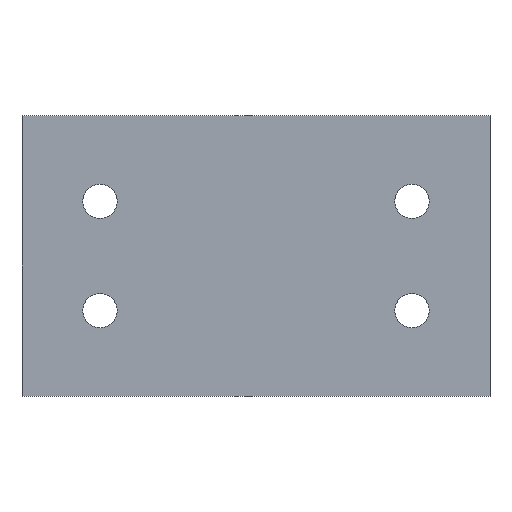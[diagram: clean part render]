
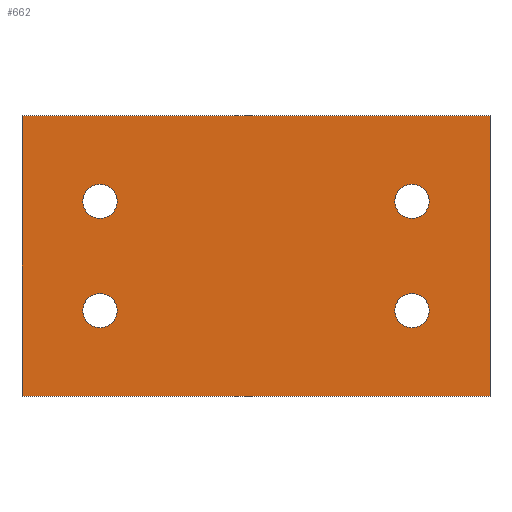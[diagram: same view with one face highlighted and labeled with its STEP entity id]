
A CAD part, top view. The second image highlights one B-rep face of the part: STEP entity #662.
In plain terms, the highlighted planar face has unit normal (0, 0, 1).
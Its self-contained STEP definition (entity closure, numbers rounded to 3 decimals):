
#24 = VERTEX_POINT('',#25);
#25 = CARTESIAN_POINT('',(-150.,-90.,20.));
#32 = PLANE('',#33);
#33 = AXIS2_PLACEMENT_3D('',#34,#35,#36);
#34 = CARTESIAN_POINT('',(-150.,-90.,0.));
#35 = DIRECTION('',(0.,1.,0.));
#36 = DIRECTION('',(1.,0.,0.));
#44 = PLANE('',#45);
#45 = AXIS2_PLACEMENT_3D('',#46,#47,#48);
#46 = CARTESIAN_POINT('',(-150.,90.,0.));
#47 = DIRECTION('',(1.,0.,-0.));
#48 = DIRECTION('',(0.,-1.,0.));
#56 = EDGE_CURVE('',#24,#57,#59,.T.);
#57 = VERTEX_POINT('',#58);
#58 = CARTESIAN_POINT('',(150.,-90.,20.));
#59 = SURFACE_CURVE('',#60,(#64,#71),.PCURVE_S1.);
#60 = LINE('',#61,#62);
#61 = CARTESIAN_POINT('',(-150.,-90.,20.));
#62 = VECTOR('',#63,1.);
#63 = DIRECTION('',(1.,0.,0.));
#64 = PCURVE('',#32,#65);
#65 = DEFINITIONAL_REPRESENTATION('',(#66),#70);
#66 = LINE('',#67,#68);
#67 = CARTESIAN_POINT('',(0.,-20.));
#68 = VECTOR('',#69,1.);
#69 = DIRECTION('',(1.,0.));
#70 = ( GEOMETRIC_REPRESENTATION_CONTEXT(2) 
PARAMETRIC_REPRESENTATION_CONTEXT() REPRESENTATION_CONTEXT('2D SPACE',''
  ) );
#71 = PCURVE('',#72,#77);
#72 = PLANE('',#73);
#73 = AXIS2_PLACEMENT_3D('',#74,#75,#76);
#74 = CARTESIAN_POINT('',(0.,0.,20.));
#75 = DIRECTION('',(0.,0.,1.));
#76 = DIRECTION('',(1.,0.,-0.));
#77 = DEFINITIONAL_REPRESENTATION('',(#78),#82);
#78 = LINE('',#79,#80);
#79 = CARTESIAN_POINT('',(-150.,-90.));
#80 = VECTOR('',#81,1.);
#81 = DIRECTION('',(1.,0.));
#82 = ( GEOMETRIC_REPRESENTATION_CONTEXT(2) 
PARAMETRIC_REPRESENTATION_CONTEXT() REPRESENTATION_CONTEXT('2D SPACE',''
  ) );
#100 = PLANE('',#101);
#101 = AXIS2_PLACEMENT_3D('',#102,#103,#104);
#102 = CARTESIAN_POINT('',(150.,-90.,0.));
#103 = DIRECTION('',(-1.,0.,0.));
#104 = DIRECTION('',(0.,1.,0.));
#142 = EDGE_CURVE('',#57,#143,#145,.T.);
#143 = VERTEX_POINT('',#144);
#144 = CARTESIAN_POINT('',(150.,90.,20.));
#145 = SURFACE_CURVE('',#146,(#150,#157),.PCURVE_S1.);
#146 = LINE('',#147,#148);
#147 = CARTESIAN_POINT('',(150.,-90.,20.));
#148 = VECTOR('',#149,1.);
#149 = DIRECTION('',(0.,1.,0.));
#150 = PCURVE('',#100,#151);
#151 = DEFINITIONAL_REPRESENTATION('',(#152),#156);
#152 = LINE('',#153,#154);
#153 = CARTESIAN_POINT('',(0.,-20.));
#154 = VECTOR('',#155,1.);
#155 = DIRECTION('',(1.,0.));
#156 = ( GEOMETRIC_REPRESENTATION_CONTEXT(2) 
PARAMETRIC_REPRESENTATION_CONTEXT() REPRESENTATION_CONTEXT('2D SPACE',''
  ) );
#157 = PCURVE('',#72,#158);
#158 = DEFINITIONAL_REPRESENTATION('',(#159),#163);
#159 = LINE('',#160,#161);
#160 = CARTESIAN_POINT('',(150.,-90.));
#161 = VECTOR('',#162,1.);
#162 = DIRECTION('',(0.,1.));
#163 = ( GEOMETRIC_REPRESENTATION_CONTEXT(2) 
PARAMETRIC_REPRESENTATION_CONTEXT() REPRESENTATION_CONTEXT('2D SPACE',''
  ) );
#181 = PLANE('',#182);
#182 = AXIS2_PLACEMENT_3D('',#183,#184,#185);
#183 = CARTESIAN_POINT('',(150.,90.,0.));
#184 = DIRECTION('',(0.,-1.,0.));
#185 = DIRECTION('',(-1.,0.,0.));
#218 = EDGE_CURVE('',#143,#219,#221,.T.);
#219 = VERTEX_POINT('',#220);
#220 = CARTESIAN_POINT('',(-150.,90.,20.));
#221 = SURFACE_CURVE('',#222,(#226,#233),.PCURVE_S1.);
#222 = LINE('',#223,#224);
#223 = CARTESIAN_POINT('',(150.,90.,20.));
#224 = VECTOR('',#225,1.);
#225 = DIRECTION('',(-1.,0.,0.));
#226 = PCURVE('',#181,#227);
#227 = DEFINITIONAL_REPRESENTATION('',(#228),#232);
#228 = LINE('',#229,#230);
#229 = CARTESIAN_POINT('',(0.,-20.));
#230 = VECTOR('',#231,1.);
#231 = DIRECTION('',(1.,0.));
#232 = ( GEOMETRIC_REPRESENTATION_CONTEXT(2) 
PARAMETRIC_REPRESENTATION_CONTEXT() REPRESENTATION_CONTEXT('2D SPACE',''
  ) );
#233 = PCURVE('',#72,#234);
#234 = DEFINITIONAL_REPRESENTATION('',(#235),#239);
#235 = LINE('',#236,#237);
#236 = CARTESIAN_POINT('',(150.,90.));
#237 = VECTOR('',#238,1.);
#238 = DIRECTION('',(-1.,0.));
#239 = ( GEOMETRIC_REPRESENTATION_CONTEXT(2) 
PARAMETRIC_REPRESENTATION_CONTEXT() REPRESENTATION_CONTEXT('2D SPACE',''
  ) );
#289 = EDGE_CURVE('',#219,#24,#290,.T.);
#290 = SURFACE_CURVE('',#291,(#295,#302),.PCURVE_S1.);
#291 = LINE('',#292,#293);
#292 = CARTESIAN_POINT('',(-150.,90.,20.));
#293 = VECTOR('',#294,1.);
#294 = DIRECTION('',(0.,-1.,0.));
#295 = PCURVE('',#44,#296);
#296 = DEFINITIONAL_REPRESENTATION('',(#297),#301);
#297 = LINE('',#298,#299);
#298 = CARTESIAN_POINT('',(0.,-20.));
#299 = VECTOR('',#300,1.);
#300 = DIRECTION('',(1.,0.));
#301 = ( GEOMETRIC_REPRESENTATION_CONTEXT(2) 
PARAMETRIC_REPRESENTATION_CONTEXT() REPRESENTATION_CONTEXT('2D SPACE',''
  ) );
#302 = PCURVE('',#72,#303);
#303 = DEFINITIONAL_REPRESENTATION('',(#304),#308);
#304 = LINE('',#305,#306);
#305 = CARTESIAN_POINT('',(-150.,90.));
#306 = VECTOR('',#307,1.);
#307 = DIRECTION('',(0.,-1.));
#308 = ( GEOMETRIC_REPRESENTATION_CONTEXT(2) 
PARAMETRIC_REPRESENTATION_CONTEXT() REPRESENTATION_CONTEXT('2D SPACE',''
  ) );
#338 = VERTEX_POINT('',#339);
#339 = CARTESIAN_POINT('',(-89.,-35.,20.));
#346 = CYLINDRICAL_SURFACE('',#347,11.);
#347 = AXIS2_PLACEMENT_3D('',#348,#349,#350);
#348 = CARTESIAN_POINT('',(-100.,-35.,0.));
#349 = DIRECTION('',(-0.,-0.,-1.));
#350 = DIRECTION('',(1.,0.,-0.));
#365 = EDGE_CURVE('',#338,#338,#366,.T.);
#366 = SURFACE_CURVE('',#367,(#372,#379),.PCURVE_S1.);
#367 = CIRCLE('',#368,11.);
#368 = AXIS2_PLACEMENT_3D('',#369,#370,#371);
#369 = CARTESIAN_POINT('',(-100.,-35.,20.));
#370 = DIRECTION('',(0.,0.,1.));
#371 = DIRECTION('',(1.,0.,-0.));
#372 = PCURVE('',#346,#373);
#373 = DEFINITIONAL_REPRESENTATION('',(#374),#378);
#374 = LINE('',#375,#376);
#375 = CARTESIAN_POINT('',(-0.,-20.));
#376 = VECTOR('',#377,1.);
#377 = DIRECTION('',(-1.,0.));
#378 = ( GEOMETRIC_REPRESENTATION_CONTEXT(2) 
PARAMETRIC_REPRESENTATION_CONTEXT() REPRESENTATION_CONTEXT('2D SPACE',''
  ) );
#379 = PCURVE('',#72,#380);
#380 = DEFINITIONAL_REPRESENTATION('',(#381),#385);
#381 = CIRCLE('',#382,11.);
#382 = AXIS2_PLACEMENT_2D('',#383,#384);
#383 = CARTESIAN_POINT('',(-100.,-35.));
#384 = DIRECTION('',(1.,0.));
#385 = ( GEOMETRIC_REPRESENTATION_CONTEXT(2) 
PARAMETRIC_REPRESENTATION_CONTEXT() REPRESENTATION_CONTEXT('2D SPACE',''
  ) );
#416 = VERTEX_POINT('',#417);
#417 = CARTESIAN_POINT('',(-89.,35.,20.));
#424 = CYLINDRICAL_SURFACE('',#425,11.);
#425 = AXIS2_PLACEMENT_3D('',#426,#427,#428);
#426 = CARTESIAN_POINT('',(-100.,35.,0.));
#427 = DIRECTION('',(-0.,-0.,-1.));
#428 = DIRECTION('',(1.,0.,-0.));
#443 = EDGE_CURVE('',#416,#416,#444,.T.);
#444 = SURFACE_CURVE('',#445,(#450,#457),.PCURVE_S1.);
#445 = CIRCLE('',#446,11.);
#446 = AXIS2_PLACEMENT_3D('',#447,#448,#449);
#447 = CARTESIAN_POINT('',(-100.,35.,20.));
#448 = DIRECTION('',(0.,0.,1.));
#449 = DIRECTION('',(1.,0.,-0.));
#450 = PCURVE('',#424,#451);
#451 = DEFINITIONAL_REPRESENTATION('',(#452),#456);
#452 = LINE('',#453,#454);
#453 = CARTESIAN_POINT('',(-0.,-20.));
#454 = VECTOR('',#455,1.);
#455 = DIRECTION('',(-1.,0.));
#456 = ( GEOMETRIC_REPRESENTATION_CONTEXT(2) 
PARAMETRIC_REPRESENTATION_CONTEXT() REPRESENTATION_CONTEXT('2D SPACE',''
  ) );
#457 = PCURVE('',#72,#458);
#458 = DEFINITIONAL_REPRESENTATION('',(#459),#463);
#459 = CIRCLE('',#460,11.);
#460 = AXIS2_PLACEMENT_2D('',#461,#462);
#461 = CARTESIAN_POINT('',(-100.,35.));
#462 = DIRECTION('',(1.,0.));
#463 = ( GEOMETRIC_REPRESENTATION_CONTEXT(2) 
PARAMETRIC_REPRESENTATION_CONTEXT() REPRESENTATION_CONTEXT('2D SPACE',''
  ) );
#494 = VERTEX_POINT('',#495);
#495 = CARTESIAN_POINT('',(111.,-35.,20.));
#502 = CYLINDRICAL_SURFACE('',#503,11.);
#503 = AXIS2_PLACEMENT_3D('',#504,#505,#506);
#504 = CARTESIAN_POINT('',(100.,-35.,0.));
#505 = DIRECTION('',(-0.,-0.,-1.));
#506 = DIRECTION('',(1.,0.,-0.));
#521 = EDGE_CURVE('',#494,#494,#522,.T.);
#522 = SURFACE_CURVE('',#523,(#528,#535),.PCURVE_S1.);
#523 = CIRCLE('',#524,11.);
#524 = AXIS2_PLACEMENT_3D('',#525,#526,#527);
#525 = CARTESIAN_POINT('',(100.,-35.,20.));
#526 = DIRECTION('',(0.,0.,1.));
#527 = DIRECTION('',(1.,0.,-0.));
#528 = PCURVE('',#502,#529);
#529 = DEFINITIONAL_REPRESENTATION('',(#530),#534);
#530 = LINE('',#531,#532);
#531 = CARTESIAN_POINT('',(-0.,-20.));
#532 = VECTOR('',#533,1.);
#533 = DIRECTION('',(-1.,0.));
#534 = ( GEOMETRIC_REPRESENTATION_CONTEXT(2) 
PARAMETRIC_REPRESENTATION_CONTEXT() REPRESENTATION_CONTEXT('2D SPACE',''
  ) );
#535 = PCURVE('',#72,#536);
#536 = DEFINITIONAL_REPRESENTATION('',(#537),#541);
#537 = CIRCLE('',#538,11.);
#538 = AXIS2_PLACEMENT_2D('',#539,#540);
#539 = CARTESIAN_POINT('',(100.,-35.));
#540 = DIRECTION('',(1.,0.));
#541 = ( GEOMETRIC_REPRESENTATION_CONTEXT(2) 
PARAMETRIC_REPRESENTATION_CONTEXT() REPRESENTATION_CONTEXT('2D SPACE',''
  ) );
#572 = VERTEX_POINT('',#573);
#573 = CARTESIAN_POINT('',(111.,35.,20.));
#580 = CYLINDRICAL_SURFACE('',#581,11.);
#581 = AXIS2_PLACEMENT_3D('',#582,#583,#584);
#582 = CARTESIAN_POINT('',(100.,35.,0.));
#583 = DIRECTION('',(-0.,-0.,-1.));
#584 = DIRECTION('',(1.,0.,-0.));
#599 = EDGE_CURVE('',#572,#572,#600,.T.);
#600 = SURFACE_CURVE('',#601,(#606,#613),.PCURVE_S1.);
#601 = CIRCLE('',#602,11.);
#602 = AXIS2_PLACEMENT_3D('',#603,#604,#605);
#603 = CARTESIAN_POINT('',(100.,35.,20.));
#604 = DIRECTION('',(0.,0.,1.));
#605 = DIRECTION('',(1.,0.,-0.));
#606 = PCURVE('',#580,#607);
#607 = DEFINITIONAL_REPRESENTATION('',(#608),#612);
#608 = LINE('',#609,#610);
#609 = CARTESIAN_POINT('',(-0.,-20.));
#610 = VECTOR('',#611,1.);
#611 = DIRECTION('',(-1.,0.));
#612 = ( GEOMETRIC_REPRESENTATION_CONTEXT(2) 
PARAMETRIC_REPRESENTATION_CONTEXT() REPRESENTATION_CONTEXT('2D SPACE',''
  ) );
#613 = PCURVE('',#72,#614);
#614 = DEFINITIONAL_REPRESENTATION('',(#615),#619);
#615 = CIRCLE('',#616,11.);
#616 = AXIS2_PLACEMENT_2D('',#617,#618);
#617 = CARTESIAN_POINT('',(100.,35.));
#618 = DIRECTION('',(1.,0.));
#619 = ( GEOMETRIC_REPRESENTATION_CONTEXT(2) 
PARAMETRIC_REPRESENTATION_CONTEXT() REPRESENTATION_CONTEXT('2D SPACE',''
  ) );
#662 = ADVANCED_FACE('',(#663,#669,#672,#675,#678),#72,.T.);
#663 = FACE_BOUND('',#664,.T.);
#664 = EDGE_LOOP('',(#665,#666,#667,#668));
#665 = ORIENTED_EDGE('',*,*,#56,.T.);
#666 = ORIENTED_EDGE('',*,*,#142,.T.);
#667 = ORIENTED_EDGE('',*,*,#218,.T.);
#668 = ORIENTED_EDGE('',*,*,#289,.T.);
#669 = FACE_BOUND('',#670,.F.);
#670 = EDGE_LOOP('',(#671));
#671 = ORIENTED_EDGE('',*,*,#365,.T.);
#672 = FACE_BOUND('',#673,.F.);
#673 = EDGE_LOOP('',(#674));
#674 = ORIENTED_EDGE('',*,*,#443,.T.);
#675 = FACE_BOUND('',#676,.F.);
#676 = EDGE_LOOP('',(#677));
#677 = ORIENTED_EDGE('',*,*,#521,.T.);
#678 = FACE_BOUND('',#679,.F.);
#679 = EDGE_LOOP('',(#680));
#680 = ORIENTED_EDGE('',*,*,#599,.T.);
